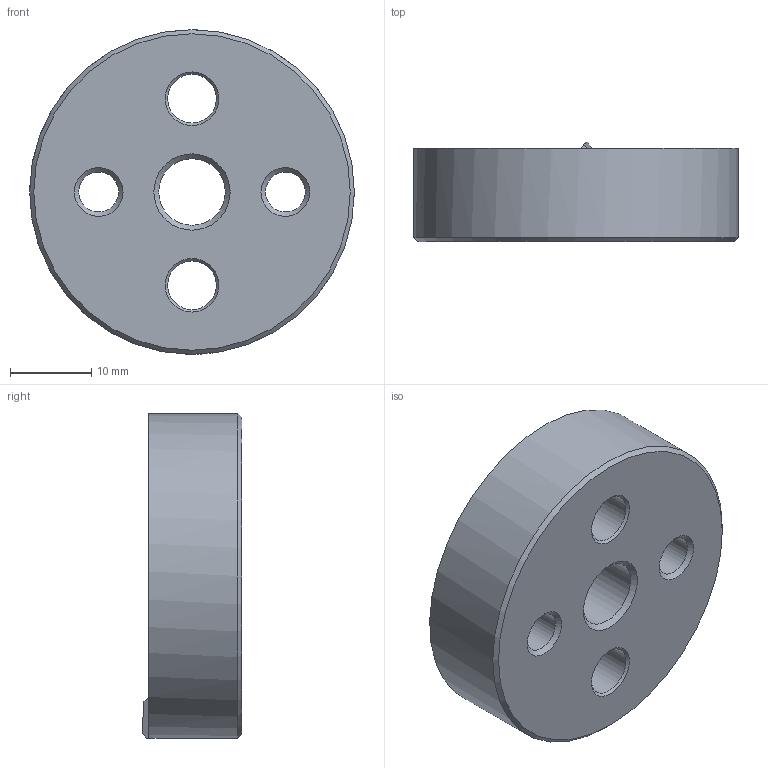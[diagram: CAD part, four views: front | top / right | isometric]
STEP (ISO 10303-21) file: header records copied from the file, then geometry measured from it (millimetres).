
FILE_DESCRIPTION( ( 'STEP AP203' ), '1' );
FILE_NAME( 'C:/Temp/Ganter_Step_05_03_2020/data/3_2/gn187_4/gn187_4_st/Serrated locking plate GN 187.4-40-48-D-ST.stp', '2020-03-13T05:25:48', ( 'License CC BY-ND 4.0' ), ( 'CADENAS' ), ' ', 'PARTsolutions', ' ' );
FILE_SCHEMA( ( 'CONFIG_CONTROL_DESIGN' ) );
Length unit declared in the file: millimetre
Products named in the file (1): _Serrated locking plate GN 187.4-40-48-D-ST
Bounding box: 40 x 12.32 x 40 mm (x, y, z)
Volume: 11875.3 mm3; surface area: 4679.9 mm2
Topology: 1 solids, 1 shells, 30 faces, 74 edges, 46 vertices
Faces by surface type: cone 14, cylinder 9, plane 7
Full cylindrical faces by diameter (mm): 4.917 x2, 6 x2, 8.2 x1, 30 x1, 40 x1
Entity records: 924 total; most frequent: CARTESIAN_POINT 229, DIRECTION 142, ORIENTED_EDGE 106, AXIS2_PLACEMENT_3D 68, EDGE_LOOP 58, EDGE_CURVE 53, VERTEX_POINT 43, FACE_OUTER_BOUND 37
